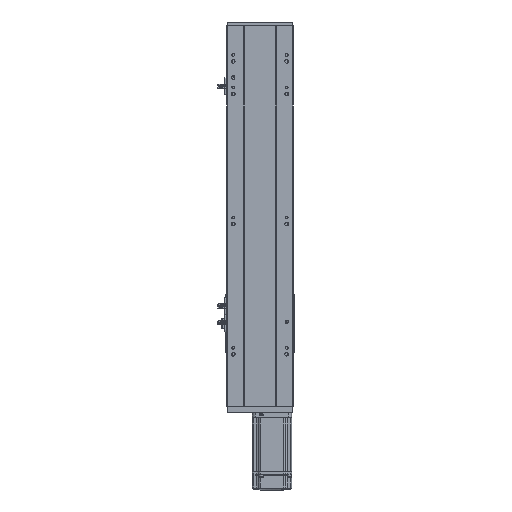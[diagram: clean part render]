
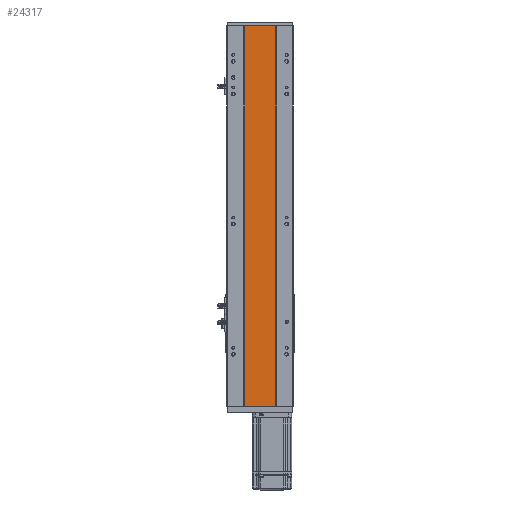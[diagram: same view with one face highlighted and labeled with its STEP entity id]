
A CAD part, front view. The second image highlights one B-rep face of the part: STEP entity #24317.
In plain terms, the highlighted planar face has unit normal (0, -1, 0).
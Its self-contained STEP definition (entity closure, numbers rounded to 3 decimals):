
#3236 = LINE ( 'NONE', #20932, #8132 ) ;
#5090 = CARTESIAN_POINT ( 'NONE',  ( 1579.351, 60.479, -584.5 ) ) ;
#5165 = CARTESIAN_POINT ( 'NONE',  ( 1628.351, 60.479, -584.5 ) ) ;
#6003 = ORIENTED_EDGE ( 'NONE', *, *, #15968, .F. ) ;
#6013 = DIRECTION ( 'NONE',  ( 1., 0., 0. ) ) ;
#6687 = CARTESIAN_POINT ( 'NONE',  ( 1579.351, 60.479, 0. ) ) ;
#8132 = VECTOR ( 'NONE', #6013, 1000. ) ;
#9574 = LINE ( 'NONE', #5165, #10640 ) ;
#10017 = LINE ( 'NONE', #29494, #18508 ) ;
#10189 = EDGE_CURVE ( 'NONE', #24325, #25616, #9574, .T. ) ;
#10640 = VECTOR ( 'NONE', #17444, 1000. ) ;
#14429 = ORIENTED_EDGE ( 'NONE', *, *, #10189, .T. ) ;
#14834 = EDGE_CURVE ( 'NONE', #26484, #15756, #10017, .T. ) ;
#15082 = DIRECTION ( 'NONE',  ( 0., -1., 0. ) ) ;
#15539 = EDGE_LOOP ( 'NONE', ( #6003, #31943, #25961, #14429 ) ) ;
#15555 = CARTESIAN_POINT ( 'NONE',  ( 1628.351, 60.479, 0. ) ) ;
#15756 = VERTEX_POINT ( 'NONE', #6687 ) ;
#15858 = CARTESIAN_POINT ( 'NONE',  ( 1579.351, 60.479, -584.5 ) ) ;
#15968 = EDGE_CURVE ( 'NONE', #15756, #25616, #3236, .T. ) ;
#17444 = DIRECTION ( 'NONE',  ( 0., 0., 1. ) ) ;
#17550 = FACE_OUTER_BOUND ( 'NONE', #15539, .T. ) ;
#18508 = VECTOR ( 'NONE', #20030, 1000. ) ;
#18587 = DIRECTION ( 'NONE',  ( 1., 0., 0. ) ) ;
#20030 = DIRECTION ( 'NONE',  ( 0., 0., 1. ) ) ;
#20270 = EDGE_CURVE ( 'NONE', #26484, #24325, #25640, .T. ) ;
#20932 = CARTESIAN_POINT ( 'NONE',  ( 1579.351, 60.479, 0. ) ) ;
#22636 = AXIS2_PLACEMENT_3D ( 'NONE', #5090, #15082, #25896 ) ;
#24317 = ADVANCED_FACE ( 'NONE', ( #17550 ), #27536, .T. ) ;
#24325 = VERTEX_POINT ( 'NONE', #26637 ) ;
#25616 = VERTEX_POINT ( 'NONE', #15555 ) ;
#25640 = LINE ( 'NONE', #26112, #30516 ) ;
#25896 = DIRECTION ( 'NONE',  ( 0., 0., -1. ) ) ;
#25961 = ORIENTED_EDGE ( 'NONE', *, *, #20270, .T. ) ;
#26112 = CARTESIAN_POINT ( 'NONE',  ( 1579.351, 60.479, -584.5 ) ) ;
#26484 = VERTEX_POINT ( 'NONE', #15858 ) ;
#26637 = CARTESIAN_POINT ( 'NONE',  ( 1628.351, 60.479, -584.5 ) ) ;
#27536 = PLANE ( 'NONE',  #22636 ) ;
#29494 = CARTESIAN_POINT ( 'NONE',  ( 1579.351, 60.479, -584.5 ) ) ;
#30516 = VECTOR ( 'NONE', #18587, 1000. ) ;
#31943 = ORIENTED_EDGE ( 'NONE', *, *, #14834, .F. ) ;
